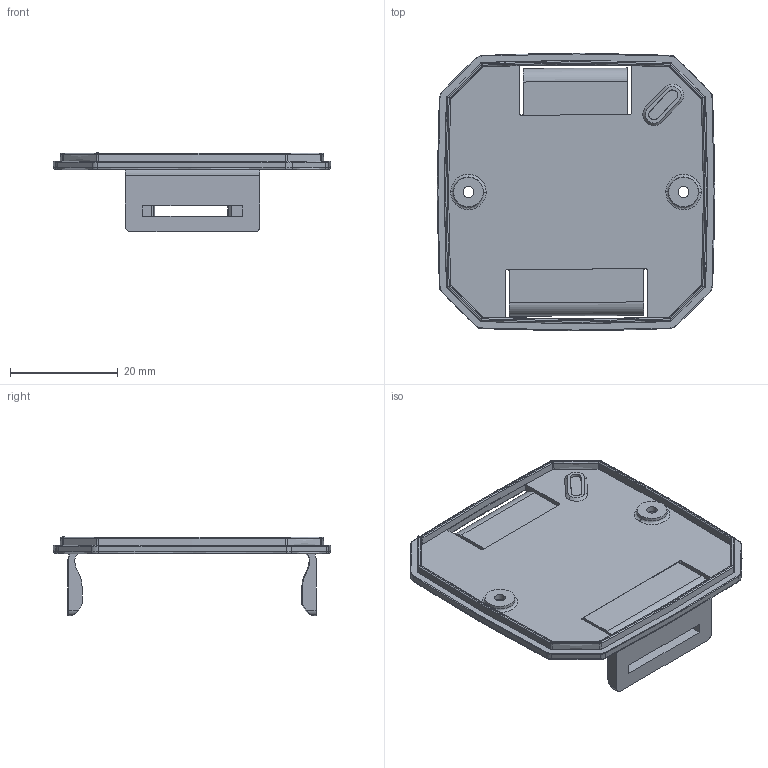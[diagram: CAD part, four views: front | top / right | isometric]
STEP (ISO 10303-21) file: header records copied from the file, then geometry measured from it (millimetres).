
FILE_DESCRIPTION (( 'STEP AP214' ), '1' );
FILE_NAME ('TUNDRA LABS_X2_STEP.STEP', '2024-11-12T03:19:31', ( '' ), ( '' ), 'SwSTEP 2.0', 'SolidWorks 2022', '' );
FILE_SCHEMA (( 'AUTOMOTIVE_DESIGN' ));
Length unit declared in the file: millimetre
Products named in the file (1): TUNDRA LABS_X2_STEP
Bounding box: 51.57 x 51.57 x 14.78 mm (x, y, z)
Surface area: 7036.3 mm2 (no closed solid volume)
Topology: 0 solids, 2 shells, 234 faces, 611 edges, 386 vertices
Faces by surface type: bspline 101, plane 56, cylinder 46, cone 23, torus 8
Entity records: 13018 total; most frequent: CARTESIAN_POINT 8003, ORIENTED_EDGE 1216, DIRECTION 781, EDGE_CURVE 611, VERTEX_POINT 386, AXIS2_PLACEMENT_3D 289, EDGE_LOOP 252, ADVANCED_FACE 234
